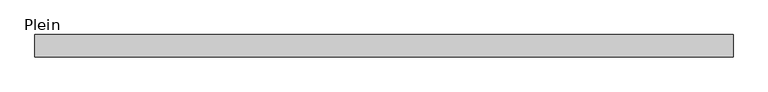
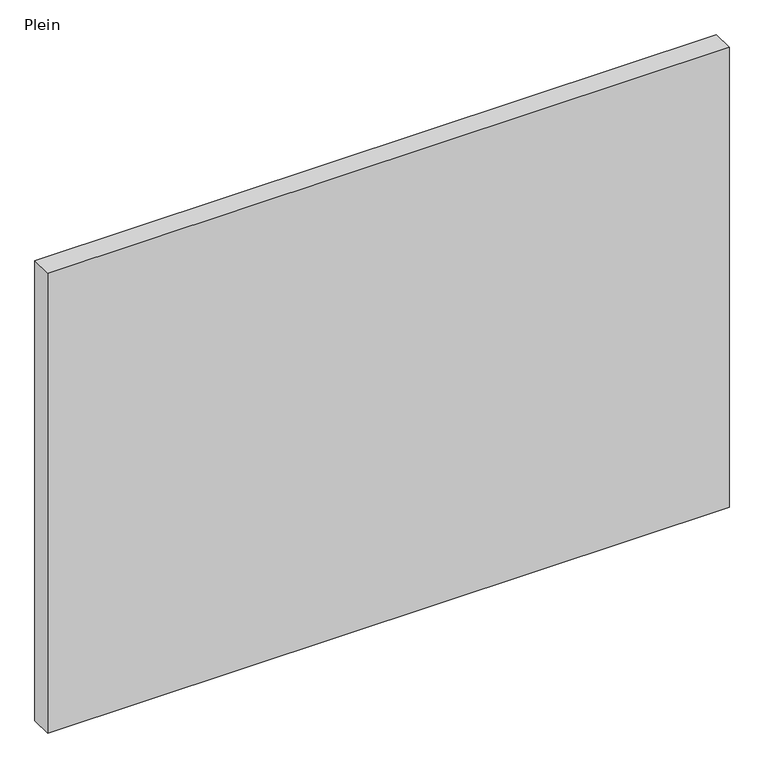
"""IFC4 building model written with IfcOpenShell, lengths in millimetres: plate geometry, Panneau système : Plein."""

from ifc_helpers import new_model, si_unit, origin, origin_with_axes, place, context, project, spatial, polyline, outline, extrude, source, transform, mapped, element, save


def plein_65b2ccc9(model_context):
    return source(origin(), model_context, "Body", "SweptSolid", [
        extrude(outline(polyline([(625.0, 5.0), (-625.0, 5.0), (-625.0, 45.0), (625.0, 45.0), (625.0, 5.0)])), origin_with_axes(), (0.0, 0.0, 1.0), 891.9604608),
    ])


if __name__ == "__main__":
    model = new_model("IFC4")
    model_context = context("Model", 3, world=origin())
    ifc_project = project(units=[si_unit("LENGTHUNIT", "METRE", prefix="MILLI")], contexts=[model_context])
    site = spatial("IfcSite", under=ifc_project)
    building = spatial("IfcBuilding", under=site)
    placement = place(None, origin())
    plein_shape = plein_65b2ccc9(model_context)
    element("IfcPlate", 1, ObjectType="Panneau système : Plein", at=placement, inside=building, context=model_context, shape_type="MappedRepresentation", body=[
        mapped(plein_shape, transform((0.0, 0.0, 0.0), x_axis=(1.0, 0.0, 0.0), y_axis=(0.0, 1.0, 0.0), z_axis=(0.0, 0.0, 1.0))),
    ])
    save(model, "model.ifc")
